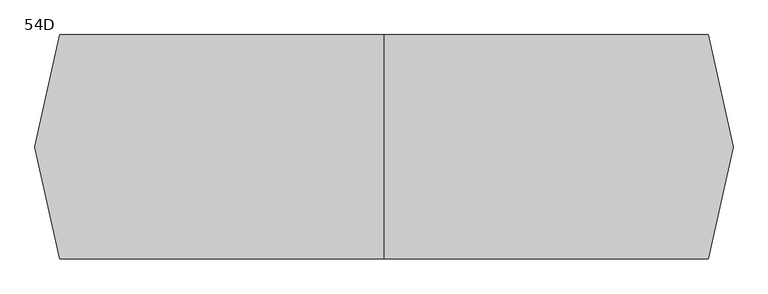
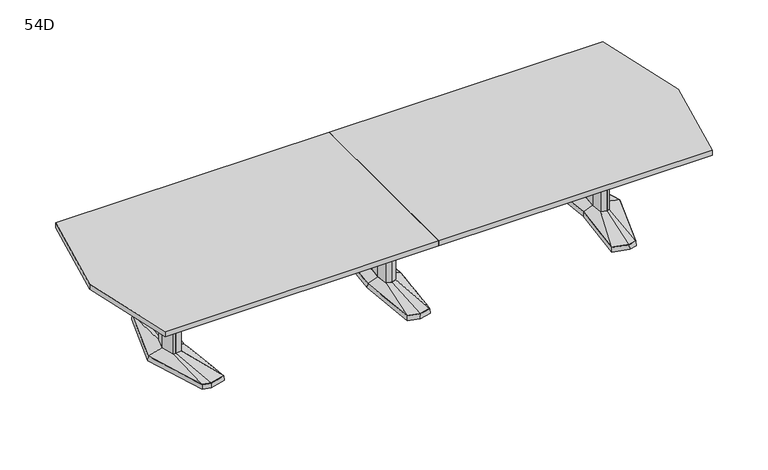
"""IFC4 building model written with IfcOpenShell, lengths in millimetres: furniture geometry, Coalesse_AM_Table_Conference_ETable2_Faceted_14ft_Aluminium Base : 54D."""

from ifc_helpers import new_model, si_unit, frame, origin, place, context, project, spatial, polyline, outline, extrude, faceted_brep, source, transform, mapped, element, save
from ifc_brep_helpers import plane_surface, spline_surface, advanced_brep


def furniture_54d_50f8136e(model_context):
    return source(origin(), model_context, "Body", "SolidModel", [
        faceted_brep([(1515.4306835, 455.5848221, 38.1), (1405.8531277, 426.2263816, 38.1), (1447.0163717, 0.0, 38.1), (1405.8531277, -426.2263816, 38.1), (1515.4306835, -455.5848221, 38.1), (1571.5570396, -440.5478297, 38.1), (1708.8684269, 0.0, 38.1), (1571.5570396, 440.5478297, 38.1), (1515.4306754, 457.2283104, 3.175), (1572.8124472, 441.8549756, 3.175), (1710.53125, 0.0, 3.175), (1572.8124472, -441.8549756, 3.175), (1515.4306754, -457.2283104, 3.175), (1404.14375, -427.4118891, 3.175), (1445.4214856, 0.0, 3.175), (1404.14375, 427.4118891, 3.175), (1519.020115, 428.3273875, 3.175), (1413.9718228, 402.1057253, 3.175), (1422.090518, 377.985069, 3.175), (1522.6095466, 401.0699529, 3.175), (1573.1691725, 387.524361, 3.175), (1572.3631061, 414.0360954, 3.175), (1519.020115, -428.3273875, 3.175), (1572.3631061, -414.0360954, 3.175), (1573.1691725, -387.524361, 3.175), (1522.6095466, -401.0699529, 3.175), (1422.090518, -377.985069, 3.175), (1413.9718228, -402.1057253, 3.175), (1645.6153621, 0.0, 3.175), (1613.3459611, 120.4193755, 3.175), (1564.6987222, 133.471665, 3.175), (1484.8180526, 119.4176561, 3.175), (1473.6868466, 0.0, 3.175), (1484.8180526, -119.4176561, 3.175), (1564.6987222, -133.471665, 3.175), (1613.3459611, -120.4193755, 3.175), (1519.020115, 428.3273875, 0.0), (1572.3631061, 414.0360954, 0.0), (1573.1691725, 387.524361, 0.0), (1522.6095466, 401.0699529, 0.0), (1422.090518, 377.985069, 0.0), (1413.9718228, 402.1057253, 0.0), (1519.020115, -428.3273875, 0.0), (1413.9718228, -402.1057253, 0.0), (1422.090518, -377.985069, 0.0), (1522.6095466, -401.0699529, 0.0), (1573.1691725, -387.524361, 0.0), (1572.3631061, -414.0360954, 0.0), (1645.6153621, 0.0, 0.0), (1613.3459611, -120.4193755, 0.0), (1564.6987222, -133.471665, 0.0), (1484.8180526, -119.4176561, 0.0), (1473.6868466, 0.0, 0.0), (1484.8180526, 119.4176561, 0.0), (1564.6987222, 133.471665, 0.0), (1613.3459611, 120.4193755, 0.0)], [[[0, 1, 2, 3, 4, 5, 6, 7]], [[8, 9, 10, 11, 12, 13, 14, 15], [16, 17, 18, 19, 20, 21], [22, 23, 24, 25, 26, 27], [28, 29, 30, 31, 32, 33, 34, 35]], [[7, 9, 8, 0]], [[6, 10, 9, 7]], [[5, 11, 10, 6]], [[4, 12, 11, 5]], [[3, 13, 12, 4]], [[2, 14, 13, 3]], [[1, 15, 14, 2]], [[0, 8, 15, 1]], [[36, 37, 38, 39, 40, 41]], [[42, 43, 44, 45, 46, 47]], [[48, 49, 50, 51, 52, 53, 54, 55]], [[36, 16, 21, 37]], [[37, 21, 20, 38]], [[38, 20, 19, 39]], [[39, 19, 18, 40]], [[40, 18, 17, 41]], [[41, 17, 16, 36]], [[42, 22, 27, 43]], [[43, 27, 26, 44]], [[44, 26, 25, 45]], [[45, 25, 24, 46]], [[46, 24, 23, 47]], [[47, 23, 22, 42]], [[48, 28, 35, 49]], [[49, 35, 34, 50]], [[50, 34, 33, 51]], [[51, 33, 32, 52]], [[52, 32, 31, 53]], [[53, 31, 30, 54]], [[54, 30, 29, 55]], [[55, 29, 28, 48]]]),
        faceted_brep([(1606.1710836, 0.0, 698.5), (1582.2358546, 89.3188359, 698.5), (1565.3824984, 93.8406728, 698.5), (1562.9826511, 94.4845635, 698.5), (1520.055146, 86.9320037, 698.5), (1511.9520056, 0.0, 698.5), (1520.055146, -86.9320037, 698.5), (1562.9826511, -94.4845635, 698.5), (1565.3824984, -93.8406728, 698.5), (1582.2358546, -89.3188359, 698.5), (1606.1710836, 0.0, 63.5), (1582.2358546, -89.3188359, 63.5), (1565.3824984, -93.8406728, 63.5), (1562.9826511, -94.4845635, 63.5), (1520.055146, -86.9320037, 63.5), (1511.9520056, 0.0, 63.5), (1520.055146, 86.9320037, 63.5), (1562.9826511, 94.4845635, 63.5), (1565.3824984, 93.8406728, 63.5), (1582.2358546, 89.3188359, 63.5)], [[[0, 1, 2, 3, 4, 5, 6, 7, 8, 9]], [[10, 11, 12, 13, 14, 15, 16, 17, 18, 19]], [[9, 11, 10, 0]], [[8, 12, 11, 9]], [[7, 13, 12, 8]], [[6, 14, 13, 7]], [[5, 15, 14, 6]], [[4, 16, 15, 5]], [[3, 17, 16, 4]], [[2, 18, 17, 3]], [[1, 19, 18, 2]], [[0, 10, 19, 1]]]),
        advanced_brep(
        [(1562.9826511, 94.4845635, 63.5), (1520.055146, 86.9320037, 63.5), (1511.9520056, 0.0, 63.5), (1520.055146, -86.9320037, 63.5), (1562.9826511, -94.4845635, 63.5), (1582.2358546, -89.3188359, 63.5), (1606.1710836, 0.0, 63.5), (1582.2358546, 89.3188359, 63.5), (1515.4306835, 455.5848221, 38.1), (1571.5570396, 440.5478297, 38.1), (1708.8684269, 0.0, 38.1), (1571.5570396, -440.5478297, 38.1), (1515.4306835, -455.5848221, 38.1), (1405.8531277, -426.2263816, 38.1), (1447.0163717, 0.0, 38.1), (1405.8531277, 426.2263816, 38.1)],
        [
            (0, 1),
            (1, 2),
            (2, 3),
            (3, 4),
            (4, 5),
            (5, 6),
            (6, 7),
            (7, 0),
            (8, 9),
            (9, 10),
            (10, 11),
            (11, 12),
            (12, 13),
            (13, 14),
            (14, 15),
            (15, 8),
            (8, 0),
            (7, 9),
            (6, 10),
            (5, 11),
            (4, 12),
            (3, 13),
            (2, 14),
            (1, 15),
        ],
        [
            plane_surface(frame((1556.0837991, 0.0, 63.5), z_axis=(0.0, 0.0, 1.0), x_axis=(-0.25884244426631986, -0.9659195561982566, 0.0))),
            plane_surface(frame((1517.6958125, 0.0, 38.1), z_axis=(0.0, 0.0, -1.0), x_axis=(-0.25884244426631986, -0.9659195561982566, 0.0))),
            spline_surface(1, 1, [[(1515.4306835, 455.5848221, 38.1), (1571.5570396, 440.5478297, 38.1)], [(1562.9826511, 94.4845635, 63.5), (1582.2358546, 89.3188359, 63.5)]], [2, 2], [2, 2], [0.0, 1.0], [0.0, 1.0]),
            spline_surface(1, 1, [[(1571.5570396, 440.5478297, 38.1), (1708.8684269, 0.0, 38.1)], [(1582.2358546, 89.3188359, 63.5), (1606.1710836, 0.0, 63.5)]], [2, 2], [2, 2], [0.0, 1.0], [0.0, 1.0]),
            spline_surface(1, 1, [[(1708.8684269, 0.0, 38.1), (1571.5570396, -440.5478297, 38.1)], [(1606.1710836, 0.0, 63.5), (1582.2358546, -89.3188359, 63.5)]], [2, 2], [2, 2], [0.0, 1.0], [0.0, 1.0]),
            spline_surface(1, 1, [[(1571.5570396, -440.5478297, 38.1), (1515.4306835, -455.5848221, 38.1)], [(1582.2358546, -89.3188359, 63.5), (1562.9826511, -94.4845635, 63.5)]], [2, 2], [2, 2], [0.0, 1.0], [0.0, 1.0]),
            spline_surface(1, 1, [[(1515.4306835, -455.5848221, 38.1), (1405.8531277, -426.2263816, 38.1)], [(1562.9826511, -94.4845635, 63.5), (1520.055146, -86.9320037, 63.5)]], [2, 2], [2, 2], [0.0, 1.0], [0.0, 1.0]),
            spline_surface(1, 1, [[(1405.8531277, -426.2263816, 38.1), (1447.0163717, 0.0, 38.1)], [(1520.055146, -86.9320037, 63.5), (1511.9520056, 0.0, 63.5)]], [2, 2], [2, 2], [0.0, 1.0], [0.0, 1.0]),
            spline_surface(1, 1, [[(1447.0163717, 0.0, 38.1), (1405.8531277, 426.2263816, 38.1)], [(1511.9520056, 0.0, 63.5), (1520.055146, 86.9320037, 63.5)]], [2, 2], [2, 2], [0.0, 1.0], [0.0, 1.0]),
            spline_surface(1, 1, [[(1405.8531277, 426.2263816, 38.1), (1515.4306835, 455.5848221, 38.1)], [(1520.055146, 86.9320037, 63.5), (1562.9826511, 94.4845635, 63.5)]], [2, 2], [2, 2], [0.0, 1.0], [0.0, 1.0]),
        ],
        [
            (0, [[1, 2, 3, 4, 5, 6, 7, 8]]),
            (1, [[9, 10, 11, 12, 13, 14, 15, 16]]),
            (2, [[17, -8, 18, -9]]),
            (3, [[-18, -7, 19, -10]]),
            (4, [[-19, -6, 20, -11]]),
            (5, [[-20, -5, 21, -12]]),
            (6, [[-21, -4, 22, -13]]),
            (7, [[-22, -3, 23, -14]]),
            (8, [[-23, -2, 24, -15]]),
            (9, [[-24, -1, -17, -16]]),
        ],
    ),
        faceted_brep([(-1515.4306835, 455.5848221, 38.1), (-1571.5570396, 440.5478297, 38.1), (-1708.8684269, 0.0, 38.1), (-1571.5570396, -440.5478297, 38.1), (-1515.4306835, -455.5848221, 38.1), (-1405.8531277, -426.2263816, 38.1), (-1447.0163717, 0.0, 38.1), (-1405.8531277, 426.2263816, 38.1), (-1515.4306754, 457.2283104, 3.175), (-1404.14375, 427.4118891, 3.175), (-1445.4214856, 0.0, 3.175), (-1404.14375, -427.4118891, 3.175), (-1515.4306754, -457.2283104, 3.175), (-1572.8124472, -441.8549756, 3.175), (-1710.53125, 0.0, 3.175), (-1572.8124472, 441.8549756, 3.175), (-1519.020115, 428.3273875, 3.175), (-1572.3631061, 414.0360954, 3.175), (-1573.1691725, 387.524361, 3.175), (-1522.6095466, 401.0699529, 3.175), (-1422.090518, 377.985069, 3.175), (-1413.9718228, 402.1057253, 3.175), (-1519.020115, -428.3273875, 3.175), (-1413.9718228, -402.1057253, 3.175), (-1422.090518, -377.985069, 3.175), (-1522.6095466, -401.0699529, 3.175), (-1573.1691725, -387.524361, 3.175), (-1572.3631061, -414.0360954, 3.175), (-1645.6153621, 0.0, 3.175), (-1613.3459611, -120.4193755, 3.175), (-1564.6987222, -133.471665, 3.175), (-1484.8180526, -119.4176561, 3.175), (-1473.6868466, 0.0, 3.175), (-1484.8180526, 119.4176561, 3.175), (-1564.6987222, 133.471665, 3.175), (-1613.3459611, 120.4193755, 3.175), (-1519.020115, 428.3273875, 0.0), (-1413.9718228, 402.1057253, 0.0), (-1422.090518, 377.985069, 0.0), (-1522.6095466, 401.0699529, 0.0), (-1573.1691725, 387.524361, 0.0), (-1572.3631061, 414.0360954, 0.0), (-1519.020115, -428.3273875, 0.0), (-1572.3631061, -414.0360954, 0.0), (-1573.1691725, -387.524361, 0.0), (-1522.6095466, -401.0699529, 0.0), (-1422.090518, -377.985069, 0.0), (-1413.9718228, -402.1057253, 0.0), (-1645.6153621, 0.0, 0.0), (-1613.3459611, 120.4193755, 0.0), (-1564.6987222, 133.471665, 0.0), (-1484.8180526, 119.4176561, 0.0), (-1473.6868466, 0.0, 0.0), (-1484.8180526, -119.4176561, 0.0), (-1564.6987222, -133.471665, 0.0), (-1613.3459611, -120.4193755, 0.0)], [[[0, 1, 2, 3, 4, 5, 6, 7]], [[8, 9, 10, 11, 12, 13, 14, 15], [16, 17, 18, 19, 20, 21], [22, 23, 24, 25, 26, 27], [28, 29, 30, 31, 32, 33, 34, 35]], [[1, 0, 8, 15]], [[2, 1, 15, 14]], [[3, 2, 14, 13]], [[4, 3, 13, 12]], [[5, 4, 12, 11]], [[6, 5, 11, 10]], [[7, 6, 10, 9]], [[0, 7, 9, 8]], [[36, 37, 38, 39, 40, 41]], [[42, 43, 44, 45, 46, 47]], [[48, 49, 50, 51, 52, 53, 54, 55]], [[36, 41, 17, 16]], [[41, 40, 18, 17]], [[40, 39, 19, 18]], [[39, 38, 20, 19]], [[38, 37, 21, 20]], [[37, 36, 16, 21]], [[42, 47, 23, 22]], [[47, 46, 24, 23]], [[46, 45, 25, 24]], [[45, 44, 26, 25]], [[44, 43, 27, 26]], [[43, 42, 22, 27]], [[48, 55, 29, 28]], [[55, 54, 30, 29]], [[54, 53, 31, 30]], [[53, 52, 32, 31]], [[52, 51, 33, 32]], [[51, 50, 34, 33]], [[50, 49, 35, 34]], [[49, 48, 28, 35]]]),
        faceted_brep([(-1606.1710836, 0.0, 698.5), (-1582.2358546, -89.3188359, 698.5), (-1565.3824984, -93.8406728, 698.5), (-1562.9826511, -94.4845635, 698.5), (-1520.055146, -86.9320037, 698.5), (-1511.9520056, 0.0, 698.5), (-1520.055146, 86.9320037, 698.5), (-1562.9826511, 94.4845635, 698.5), (-1565.3824984, 93.8406728, 698.5), (-1582.2358546, 89.3188359, 698.5), (-1606.1710836, 0.0, 63.5), (-1582.2358546, 89.3188359, 63.5), (-1565.3824984, 93.8406728, 63.5), (-1562.9826511, 94.4845635, 63.5), (-1520.055146, 86.9320037, 63.5), (-1511.9520056, 0.0, 63.5), (-1520.055146, -86.9320037, 63.5), (-1562.9826511, -94.4845635, 63.5), (-1565.3824984, -93.8406728, 63.5), (-1582.2358546, -89.3188359, 63.5)], [[[0, 1, 2, 3, 4, 5, 6, 7, 8, 9]], [[10, 11, 12, 13, 14, 15, 16, 17, 18, 19]], [[1, 0, 10, 19]], [[2, 1, 19, 18]], [[3, 2, 18, 17]], [[4, 3, 17, 16]], [[5, 4, 16, 15]], [[6, 5, 15, 14]], [[7, 6, 14, 13]], [[8, 7, 13, 12]], [[9, 8, 12, 11]], [[0, 9, 11, 10]]]),
        advanced_brep(
        [(-1562.9826511, 94.4845635, 63.5), (-1582.2358546, 89.3188359, 63.5), (-1606.1710836, 0.0, 63.5), (-1582.2358546, -89.3188359, 63.5), (-1562.9826511, -94.4845635, 63.5), (-1520.055146, -86.9320037, 63.5), (-1511.9520056, 0.0, 63.5), (-1520.055146, 86.9320037, 63.5), (-1515.4306835, 455.5848221, 38.1), (-1405.8531277, 426.2263816, 38.1), (-1447.0163717, 0.0, 38.1), (-1405.8531277, -426.2263816, 38.1), (-1515.4306835, -455.5848221, 38.1), (-1571.5570396, -440.5478297, 38.1), (-1708.8684269, 0.0, 38.1), (-1571.5570396, 440.5478297, 38.1)],
        [
            (0, 1),
            (1, 2),
            (2, 3),
            (3, 4),
            (4, 5),
            (5, 6),
            (6, 7),
            (7, 0),
            (8, 9),
            (9, 10),
            (10, 11),
            (11, 12),
            (12, 13),
            (13, 14),
            (14, 15),
            (15, 8),
            (15, 1),
            (0, 8),
            (14, 2),
            (13, 3),
            (12, 4),
            (11, 5),
            (10, 6),
            (9, 7),
        ],
        [
            plane_surface(frame((-1556.0837991, 0.0, 63.5), z_axis=(0.0, 0.0, 1.0), x_axis=(0.25884244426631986, -0.9659195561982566, 0.0))),
            plane_surface(frame((-1517.6958125, 0.0, 38.1), z_axis=(0.0, 0.0, -1.0), x_axis=(0.25884244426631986, -0.9659195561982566, 0.0))),
            spline_surface(1, 1, [[(-1515.4306835, 455.5848221, 38.1), (-1562.9826511, 94.4845635, 63.5)], [(-1571.5570396, 440.5478297, 38.1), (-1582.2358546, 89.3188359, 63.5)]], [2, 2], [2, 2], [0.0, 1.0], [0.0, 1.0]),
            spline_surface(1, 1, [[(-1571.5570396, 440.5478297, 38.1), (-1582.2358546, 89.3188359, 63.5)], [(-1708.8684269, 0.0, 38.1), (-1606.1710836, 0.0, 63.5)]], [2, 2], [2, 2], [0.0, 1.0], [0.0, 1.0]),
            spline_surface(1, 1, [[(-1708.8684269, 0.0, 38.1), (-1606.1710836, 0.0, 63.5)], [(-1571.5570396, -440.5478297, 38.1), (-1582.2358546, -89.3188359, 63.5)]], [2, 2], [2, 2], [0.0, 1.0], [0.0, 1.0]),
            spline_surface(1, 1, [[(-1571.5570396, -440.5478297, 38.1), (-1582.2358546, -89.3188359, 63.5)], [(-1515.4306835, -455.5848221, 38.1), (-1562.9826511, -94.4845635, 63.5)]], [2, 2], [2, 2], [0.0, 1.0], [0.0, 1.0]),
            spline_surface(1, 1, [[(-1515.4306835, -455.5848221, 38.1), (-1562.9826511, -94.4845635, 63.5)], [(-1405.8531277, -426.2263816, 38.1), (-1520.055146, -86.9320037, 63.5)]], [2, 2], [2, 2], [0.0, 1.0], [0.0, 1.0]),
            spline_surface(1, 1, [[(-1405.8531277, -426.2263816, 38.1), (-1520.055146, -86.9320037, 63.5)], [(-1447.0163717, 0.0, 38.1), (-1511.9520056, 0.0, 63.5)]], [2, 2], [2, 2], [0.0, 1.0], [0.0, 1.0]),
            spline_surface(1, 1, [[(-1447.0163717, 0.0, 38.1), (-1511.9520056, 0.0, 63.5)], [(-1405.8531277, 426.2263816, 38.1), (-1520.055146, 86.9320037, 63.5)]], [2, 2], [2, 2], [0.0, 1.0], [0.0, 1.0]),
            spline_surface(1, 1, [[(-1405.8531277, 426.2263816, 38.1), (-1520.055146, 86.9320037, 63.5)], [(-1515.4306835, 455.5848221, 38.1), (-1562.9826511, 94.4845635, 63.5)]], [2, 2], [2, 2], [0.0, 1.0], [0.0, 1.0]),
        ],
        [
            (0, [[1, 2, 3, 4, 5, 6, 7, 8]]),
            (1, [[9, 10, 11, 12, 13, 14, 15, 16]]),
            (2, [[-16, 17, -1, 18]]),
            (3, [[-15, 19, -2, -17]]),
            (4, [[-14, 20, -3, -19]]),
            (5, [[-13, 21, -4, -20]]),
            (6, [[-12, 22, -5, -21]]),
            (7, [[-11, 23, -6, -22]]),
            (8, [[-10, 24, -7, -23]]),
            (9, [[-9, -18, -8, -24]]),
        ],
    ),
        faceted_brep([(-81.2333791, -433.8053819, 38.1), (0.0, -455.556576, 38.1), (81.2333791, -433.8053819, 38.1), (119.0564774, 0.0, 38.1), (81.2333791, 433.8053819, 38.1), (0.0, 455.556576, 38.1), (-81.2333791, 433.8053819, 38.1), (-119.0564774, 0.0, 38.1), (-82.7182795, -435.0512063, 3.175), (-120.65, 0.0, 3.175), (-82.7182795, 435.0512063, 3.175), (0.0, 457.2, 3.175), (82.7182795, 435.0512063, 3.175), (120.65, 0.0, 3.175), (82.7182795, -435.0512063, 3.175), (0.0, -457.2, 3.175), (0.0, 429.2617927, 3.175), (-77.9676806, 408.3850278, 3.175), (-74.7019821, 382.9646737, 3.175), (0.0, 402.9670094, 3.175), (74.7019821, 382.9646737, 3.175), (77.9676806, 408.3850278, 3.175), (0.0, -429.2617927, 3.175), (77.9676806, -408.3850278, 3.175), (74.7019821, -382.9646737, 3.175), (0.0, -402.9670094, 3.175), (-74.7019821, -382.9646737, 3.175), (-77.9676806, -408.3850278, 3.175), (-71.8574262, 114.6326257, 3.175), (-82.5426076, 0.0, 3.175), (-71.8574262, -114.6326257, 3.175), (0.0, -133.8761372, 3.175), (71.8574262, -114.6326257, 3.175), (82.5426076, 0.0, 3.175), (71.8574262, 114.6326257, 3.175), (0.0, 133.8761372, 3.175), (0.0, 429.2617927, 0.0), (77.9676806, 408.3850278, 0.0), (74.7019821, 382.9646737, 0.0), (0.0, 402.9670094, 0.0), (-74.7019821, 382.9646737, 0.0), (-77.9676806, 408.3850278, 0.0), (0.0, -429.2617927, 0.0), (-77.9676806, -408.3850278, 0.0), (-74.7019821, -382.9646737, 0.0), (0.0, -402.9670094, 0.0), (74.7019821, -382.9646737, 0.0), (77.9676806, -408.3850278, 0.0), (-71.8574262, 114.6326257, 0.0), (0.0, 133.8761372, 0.0), (71.8574262, 114.6326257, 0.0), (82.5426076, 0.0, 0.0), (71.8574262, -114.6326257, 0.0), (0.0, -133.8761372, 0.0), (-71.8574262, -114.6326257, 0.0), (-82.5426076, 0.0, 0.0)], [[[0, 1, 2, 3, 4, 5, 6, 7]], [[8, 9, 10, 11, 12, 13, 14, 15], [16, 17, 18, 19, 20, 21], [22, 23, 24, 25, 26, 27], [28, 29, 30, 31, 32, 33, 34, 35]], [[1, 0, 8, 15]], [[2, 1, 15, 14]], [[3, 2, 14, 13]], [[4, 3, 13, 12]], [[5, 4, 12, 11]], [[6, 5, 11, 10]], [[7, 6, 10, 9]], [[0, 7, 9, 8]], [[36, 37, 38, 39, 40, 41]], [[42, 43, 44, 45, 46, 47]], [[48, 49, 50, 51, 52, 53, 54, 55]], [[36, 41, 17, 16]], [[41, 40, 18, 17]], [[40, 39, 19, 18]], [[39, 38, 20, 19]], [[38, 37, 21, 20]], [[37, 36, 16, 21]], [[42, 47, 23, 22]], [[47, 46, 24, 23]], [[46, 45, 25, 24]], [[45, 44, 26, 25]], [[44, 43, 27, 26]], [[43, 42, 22, 27]], [[48, 55, 29, 28]], [[55, 54, 30, 29]], [[54, 53, 31, 30]], [[53, 52, 32, 31]], [[52, 51, 33, 32]], [[51, 50, 34, 33]], [[50, 49, 35, 34]], [[49, 48, 28, 35]]]),
        faceted_brep([(-36.3832834, 84.6900825, 698.5), (-44.2774487, 0.0, 698.5), (-36.3832834, -84.6900825, 698.5), (0.0, -94.4335728, 698.5), (36.3832834, -84.6900825, 698.5), (44.2774487, 0.0, 698.5), (36.3832834, 84.6900825, 698.5), (0.0, 94.4335728, 698.5), (-36.3832834, 84.6900825, 63.5), (0.0, 94.4335728, 63.5), (36.3832834, 84.6900825, 63.5), (44.2774487, 0.0, 63.5), (36.3832834, -84.6900825, 63.5), (0.0, -94.4335728, 63.5), (-36.3832834, -84.6900825, 63.5), (-44.2774487, 0.0, 63.5)], [[[0, 1, 2, 3, 4, 5, 6, 7]], [[8, 9, 10, 11, 12, 13, 14, 15]], [[1, 0, 8, 15]], [[2, 1, 15, 14]], [[3, 2, 14, 13]], [[4, 3, 13, 12]], [[5, 4, 12, 11]], [[6, 5, 11, 10]], [[7, 6, 10, 9]], [[0, 7, 9, 8]]]),
        advanced_brep(
        [(-36.3832834, 84.6900825, 63.5), (-44.2774487, 0.0, 63.5), (-36.3832834, -84.6900825, 63.5), (0.0, -94.4335728, 63.5), (36.3832834, -84.6900825, 63.5), (44.2774487, 0.0, 63.5), (36.3832834, 84.6900825, 63.5), (0.0, 94.4335728, 63.5), (-81.2333791, 433.8053819, 38.1), (0.0, 455.556576, 38.1), (81.2333791, 433.8053819, 38.1), (119.0564774, 0.0, 38.1), (81.2333791, -433.8053819, 38.1), (0.0, -455.556576, 38.1), (-81.2333791, -433.8053819, 38.1), (-119.0564774, 0.0, 38.1)],
        [
            (0, 1),
            (1, 2),
            (2, 3),
            (3, 4),
            (4, 5),
            (5, 6),
            (6, 7),
            (7, 0),
            (8, 9),
            (9, 10),
            (10, 11),
            (11, 12),
            (12, 13),
            (13, 14),
            (14, 15),
            (15, 8),
            (15, 1),
            (0, 8),
            (14, 2),
            (13, 3),
            (12, 4),
            (11, 5),
            (10, 6),
            (9, 7),
        ],
        [
            plane_surface(frame((0.0, 0.0, 63.5), z_axis=(0.0, 0.0, 1.0000000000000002), x_axis=(-0.9659615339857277, -0.25868574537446, 0.0))),
            plane_surface(frame((0.0, 0.0, 38.1), z_axis=(0.0, 0.0, -1.0000000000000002), x_axis=(-0.9659615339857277, -0.25868574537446, 0.0))),
            spline_surface(1, 1, [[(-81.2333791, 433.8053819, 38.1), (-36.3832834, 84.6900825, 63.5)], [(-119.0564774, 0.0, 38.1), (-44.2774487, 0.0, 63.5)]], [2, 2], [2, 2], [0.0, 1.0], [0.0, 1.0]),
            spline_surface(1, 1, [[(-119.0564774, 0.0, 38.1), (-44.2774487, 0.0, 63.5)], [(-81.2333791, -433.8053819, 38.1), (-36.3832834, -84.6900825, 63.5)]], [2, 2], [2, 2], [0.0, 1.0], [0.0, 1.0]),
            spline_surface(1, 1, [[(-81.2333791, -433.8053819, 38.1), (-36.3832834, -84.6900825, 63.5)], [(0.0, -455.556576, 38.1), (0.0, -94.4335728, 63.5)]], [2, 2], [2, 2], [0.0, 1.0], [0.0, 1.0]),
            spline_surface(1, 1, [[(0.0, -455.556576, 38.1), (0.0, -94.4335728, 63.5)], [(81.2333791, -433.8053819, 38.1), (36.3832834, -84.6900825, 63.5)]], [2, 2], [2, 2], [0.0, 1.0], [0.0, 1.0]),
            spline_surface(1, 1, [[(81.2333791, -433.8053819, 38.1), (36.3832834, -84.6900825, 63.5)], [(119.0564774, 0.0, 38.1), (44.2774487, 0.0, 63.5)]], [2, 2], [2, 2], [0.0, 1.0], [0.0, 1.0]),
            spline_surface(1, 1, [[(119.0564774, 0.0, 38.1), (44.2774487, 0.0, 63.5)], [(81.2333791, 433.8053819, 38.1), (36.3832834, 84.6900825, 63.5)]], [2, 2], [2, 2], [0.0, 1.0], [0.0, 1.0]),
            spline_surface(1, 1, [[(81.2333791, 433.8053819, 38.1), (36.3832834, 84.6900825, 63.5)], [(0.0, 455.556576, 38.1), (0.0, 94.4335728, 63.5)]], [2, 2], [2, 2], [0.0, 1.0], [0.0, 1.0]),
            spline_surface(1, 1, [[(0.0, 455.556576, 38.1), (0.0, 94.4335728, 63.5)], [(-81.2333791, 433.8053819, 38.1), (-36.3832834, 84.6900825, 63.5)]], [2, 2], [2, 2], [0.0, 1.0], [0.0, 1.0]),
        ],
        [
            (0, [[1, 2, 3, 4, 5, 6, 7, 8]]),
            (1, [[9, 10, 11, 12, 13, 14, 15, 16]]),
            (2, [[-16, 17, -1, 18]]),
            (3, [[-15, 19, -2, -17]]),
            (4, [[-14, 20, -3, -19]]),
            (5, [[-13, 21, -4, -20]]),
            (6, [[-12, 22, -5, -21]]),
            (7, [[-11, 23, -6, -22]]),
            (8, [[-10, 24, -7, -23]]),
            (9, [[-9, -18, -8, -24]]),
        ],
    ),
        extrude(outline(polyline([(96.8375, 698.5), (103.1875, 698.5), (103.1875, 476.25), (-103.1875, 476.25), (-103.1875, 698.5), (-96.8375, 698.5), (-96.8375, 482.6), (96.8375, 482.6), (96.8375, 698.5)])), frame((44.2774487, 0.0, 0.0), z_axis=(1.0, 0.0, 0.0), x_axis=(0.0, 1.0, 0.0)), (0.0, 0.0, 1.0), 1467.8163013),
        extrude(outline(polyline([(1981.5609518, 685.8), (2133.6, 0.0), (1981.5609518, -685.8), (0.0, -685.8), (0.0, 685.8), (1981.5609518, 685.8)])), frame((0.0, 0.0, 698.5), z_axis=(0.0, 0.0, 1.0), x_axis=(1.0, 0.0, 0.0)), (0.0, 0.0, 1.0), 38.1),
        extrude(outline(polyline([(0.0, 685.8), (0.0, -685.8), (-1981.5609518, -685.8), (-2133.6, 0.0), (-1981.5609518, 685.8), (0.0, 685.8)])), frame((0.0, 0.0, 698.5), z_axis=(0.0, 0.0, 1.0), x_axis=(1.0, 0.0, 0.0)), (0.0, 0.0, 1.0), 38.1),
        extrude(outline(polyline([(96.8375, 698.5), (103.1875, 698.5), (103.1875, 476.25), (-103.1875, 476.25), (-103.1875, 698.5), (-96.8375, 698.5), (-96.8375, 482.6), (96.8375, 482.6), (96.8375, 698.5)])), frame((-1512.09375, 0.0, 0.0), z_axis=(1.0, 0.0, 0.0), x_axis=(0.0, 1.0, 0.0)), (0.0, 0.0, 1.0), 1467.8163013),
    ])


if __name__ == "__main__":
    model = new_model("IFC4")
    model_context = context("Model", 3, world=origin())
    ifc_project = project(units=[si_unit("LENGTHUNIT", "METRE", prefix="MILLI")], contexts=[model_context])
    site = spatial("IfcSite", under=ifc_project)
    building = spatial("IfcBuilding", under=site)
    placement = place(None, origin())
    furniture_54d_shape = furniture_54d_50f8136e(model_context)
    element("IfcFurniture", 1, ObjectType="Coalesse_AM_Table_Conference_ETable2_Faceted_14ft_Aluminium Base : 54D", at=placement, inside=building, context=model_context, shape_type="MappedRepresentation", body=[
        mapped(furniture_54d_shape, transform((0.0, 0.0, 0.0), x_axis=(1.0, 0.0, 0.0), y_axis=(0.0, 1.0, 0.0), z_axis=(0.0, 0.0, 1.0))),
    ])
    save(model, "model.ifc")
